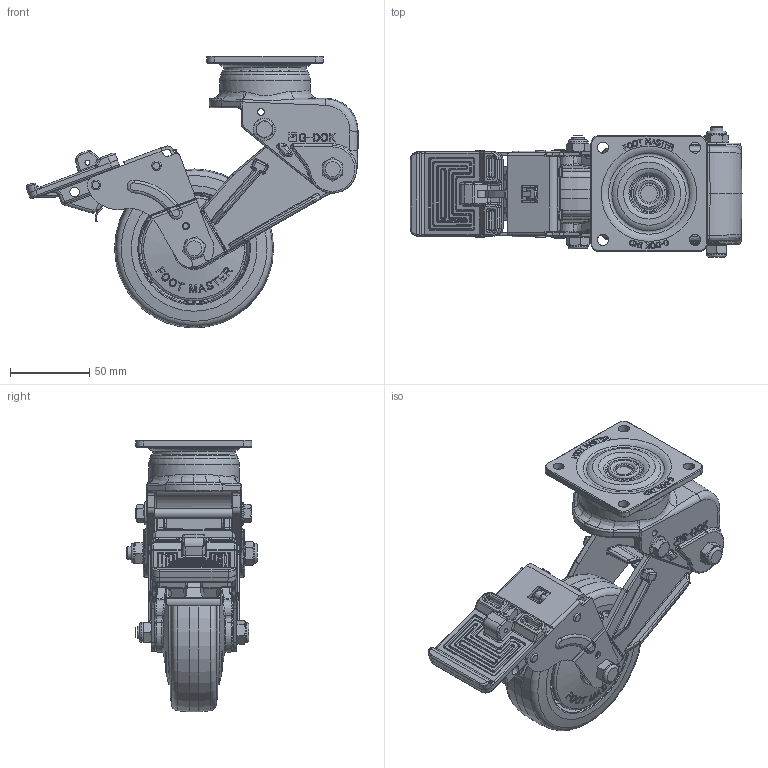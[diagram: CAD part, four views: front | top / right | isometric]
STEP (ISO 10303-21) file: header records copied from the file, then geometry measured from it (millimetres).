
FILE_DESCRIPTION(/* description */ (''),/* implementation_level */ '2;1');
FILE_NAME(/* name */ 'Z:\1.기술연구소\2.연구개발 진행중\25.충격흡수식_BBB\JYH\GDS-100-BB\2020년도\3.도면\1.3D\STEP-FILE\홈페이지용 3D\내부화 최종\GDSB-100-BRF-LUD.stp',/* time_stamp */ '2021-10-08T18:55:30+09:00',/* author */ ('admin'),/* organization */ (''),/* preprocessor_version */ 'ST-DEVELOPER v18.1',/* originating_system */ 'Autodesk Inventor 2021',/* authorisation */ '');
FILE_SCHEMA (('AUTOMOTIVE_DESIGN { 1 0 10303 214 3 1 1 }'));
Products named in the file (1): GDSB-100-BRF-내부화
Bounding box: 208.85 x 82 x 171 mm (x, y, z)
Volume: 420291.2 mm3; surface area: 154411.5 mm2
Topology: 1 solids, 2 shells, 3743 faces, 9335 edges, 5660 vertices
Faces by surface type: bspline 1251, plane 1164, cylinder 858, torus 226, cone 192, sphere 52
Full cylindrical faces by diameter (mm): 3 x3, 3.1 x2, 4 x3, 4.2 x6, 4.5 x2, 4.782 x1, 4.8 x2, 6 x6, 6.2 x2, 7 x4, 7.007 x1, 7.4 x1, 7.95 x5, 8.2 x2, 9.95 x1, 10.2 x4, 10.7 x1, 11.6 x2, 12.5 x4, 14 x2, 20 x2, 20.903 x2, 22 x2, 39 x1, 46.062 x1, 52 x1, 57 x1, 100 x1
Entity records: 146700 total; most frequent: CARTESIAN_POINT 59233, ORIENTED_EDGE 18514, DIRECTION 16053, EDGE_CURVE 9257, AXIS2_PLACEMENT_3D 6202, VERTEX_POINT 5660, EDGE_LOOP 3943, FACE_OUTER_BOUND 3743
